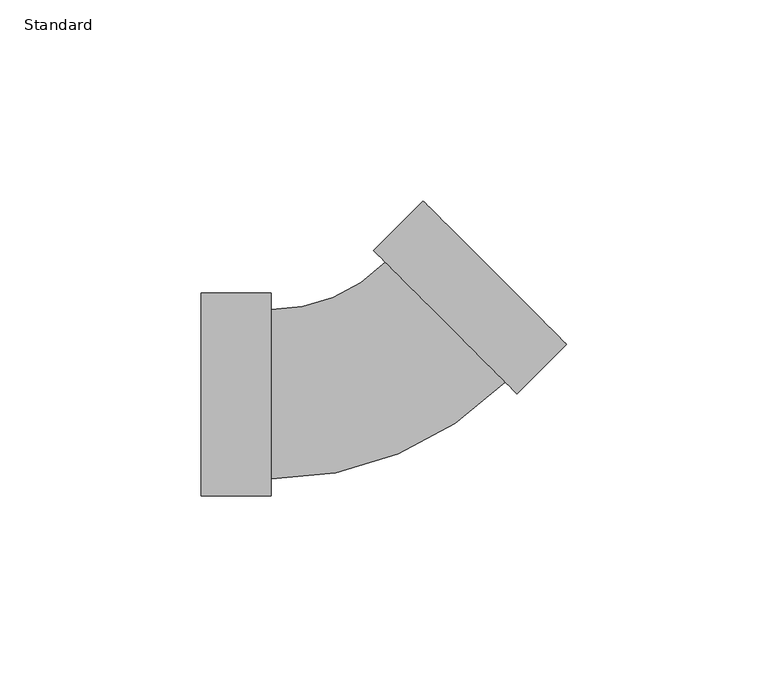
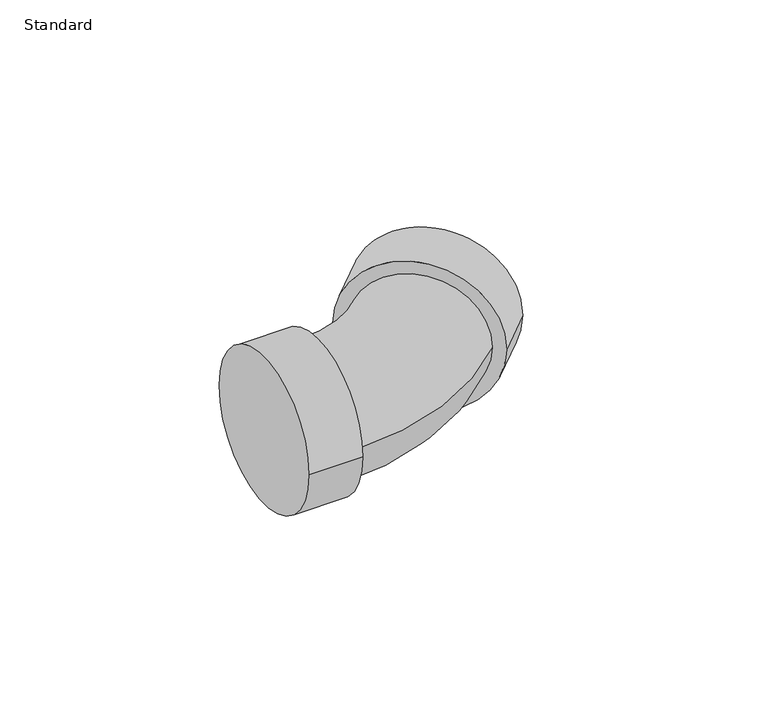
"""IFC4 building model written with IfcOpenShell, lengths in millimetres: pipe fitting geometry, Elbow_45_90-Lubrizol-CPVC-FlowGuard_MX : Standard."""

from ifc_helpers import new_model, si_unit, point, frame, origin, place, context, project, spatial, circle_curve, ellipse_curve, trimmed, source, transform, mapped, element, save
from ifc_brep_helpers import plane_surface, cylinder_surface, revolved_surface, advanced_brep


def standard_14e32512(model_context):
    return source(origin(), model_context, "Body", "AdvancedBrep", [
        advanced_brep(
        [(-42.8498, -25.2349, 0.0), (-42.8498, 25.2349, 0.0), (-25.4, -25.2349, 0.0), (-25.4, 25.2349, 0.0), (-25.4, -21.082, 0.0), (-25.4, 21.082, 0.0), (3.0532871, 32.8677374, 0.0), (32.8677374, 3.0532871, 0.0), (35.8042812, 0.1167433, 0.0), (0.1167433, 35.8042812, 0.0), (48.1431531, 12.4556152, 0.0), (12.4556152, 48.1431531, 0.0)],
        [
            (0, 1, circle_curve(frame((-42.8498, 0.0, 0.0), z_axis=(-1.0, 0.0, 0.0), x_axis=(0.0, 1.0, 0.0)), 25.2349)),
            (1, 0, circle_curve(frame((-42.8498, 0.0, 0.0), z_axis=(-1.0, 0.0, 0.0), x_axis=(0.0, 1.0, 0.0)), 25.2349)),
            (2, 3, circle_curve(frame((-25.4, 0.0, 0.0), z_axis=(1.0, 0.0, 0.0), x_axis=(0.0, 1.0, 0.0)), 25.2349)),
            (3, 2, circle_curve(frame((-25.4, 0.0, 0.0), z_axis=(1.0, 0.0, 0.0), x_axis=(0.0, 1.0, 0.0)), 25.2349)),
            (4, 5, circle_curve(frame((-25.4, 0.0, 0.0), z_axis=(-1.0, 0.0, 0.0), x_axis=(0.0, 1.0, 0.0)), 21.082)),
            (5, 4, circle_curve(frame((-25.4, 0.0, 0.0), z_axis=(-1.0, 0.0, 0.0), x_axis=(0.0, 1.0, 0.0)), 21.082)),
            (0, 2),
            (3, 1),
            (6, 5, circle_curve(frame((-25.4, 61.3210245, 0.0), z_axis=(0.0, 0.0, -1.0), x_axis=(0.0, -1.0, 0.0)), 40.2390245)),
            (4, 7, circle_curve(frame((-25.4, 61.3210245, 0.0), z_axis=(0.0, 0.0, 1.0), x_axis=(0.0, -1.0, 0.0)), 82.4030245)),
            (7, 6, circle_curve(frame((17.9605122, 17.9605122, 0.0), z_axis=(-0.7071067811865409, -0.7071067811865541, 0.0), x_axis=(-0.7071067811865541, 0.7071067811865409, 0.0)), 21.082)),
            (6, 7, circle_curve(frame((17.9605122, 17.9605122, 0.0), z_axis=(-0.7071067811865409, -0.7071067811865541, 0.0), x_axis=(-0.7071067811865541, 0.7071067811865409, 0.0)), 21.082)),
            (8, 9, circle_curve(frame((17.9605122, 17.9605122, 0.0), z_axis=(-0.7071067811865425, -0.7071067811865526, 0.0), x_axis=(-0.7071067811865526, 0.7071067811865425, 0.0)), 25.2349)),
            (9, 8, circle_curve(frame((17.9605122, 17.9605122, 0.0), z_axis=(-0.7071067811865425, -0.7071067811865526, 0.0), x_axis=(-0.7071067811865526, 0.7071067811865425, 0.0)), 25.2349)),
            (10, 11, circle_curve(frame((30.2993842, 30.2993842, 0.0), z_axis=(0.7071067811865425, 0.7071067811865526, 0.0), x_axis=(-0.7071067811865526, 0.7071067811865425, 0.0)), 25.2349)),
            (11, 10, circle_curve(frame((30.2993842, 30.2993842, 0.0), z_axis=(0.7071067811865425, 0.7071067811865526, 0.0), x_axis=(-0.7071067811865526, 0.7071067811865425, 0.0)), 25.2349)),
            (8, 10),
            (11, 9),
        ],
        [
            plane_surface(frame((-42.8498, 0.0, 0.0), z_axis=(-1.0, 0.0, 0.0), x_axis=(0.0, 0.0, 1.0))),
            plane_surface(frame((-25.4, 0.0, 0.0), z_axis=(1.0, 0.0, 0.0), x_axis=(0.0, 0.0, 1.0))),
            cylinder_surface(frame((-42.8498, 0.0, 0.0), z_axis=(-1.0, 0.0, 0.0), x_axis=(0.0, 1.0, 0.0)), 25.2349),
            revolved_surface(trimmed(ellipse_curve(frame((-25.4, 0.0, 0.0), z_axis=(-1.0, 0.0, 0.0), x_axis=(0.0, 1.0, 0.0)), 21.082, 21.082), [point((-25.4, -21.082, 0.0))], [point((-25.4, 21.082, 0.0))], True, "CARTESIAN"), (-25.4, 61.3210245, 0.0), (0.0, 0.0, 1.0)),
            revolved_surface(trimmed(ellipse_curve(frame((-25.4, 0.0, 0.0), z_axis=(-1.0, 0.0, 0.0), x_axis=(0.0, 1.0, 0.0)), 21.082, 21.082), [point((-25.4, 21.082, 0.0))], [point((-25.4, -21.082, 0.0))], True, "CARTESIAN"), (-25.4, 61.3210245, 0.0), (0.0, 0.0, 1.0)),
            plane_surface(frame((17.9605122, 17.9605122, 0.0), z_axis=(-0.7071067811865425, -0.7071067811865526, 0.0), x_axis=(0.0, 0.0, 1.0))),
            plane_surface(frame((30.2993842, 30.2993842, 0.0), z_axis=(0.7071067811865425, 0.7071067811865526, 0.0), x_axis=(0.0, 0.0, 1.0))),
            cylinder_surface(frame((17.9605122, 17.9605122, 0.0), z_axis=(-0.7071067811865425, -0.7071067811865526, 0.0), x_axis=(-0.7071067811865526, 0.7071067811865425, 0.0)), 25.2349),
        ],
        [
            (0, [[1, 2]]),
            (1, [[3, 4], [5, 6]]),
            (2, [[-1, 7, -4, 8]]),
            (2, [[-2, -8, -3, -7]]),
            (3, [[9, -5, 10, 11]]),
            (4, [[-9, 12, -10, -6]]),
            (5, [[13, 14], [-11, -12]]),
            (6, [[15, 16]]),
            (7, [[-13, 17, -16, 18]]),
            (7, [[-14, -18, -15, -17]]),
        ],
    ),
    ])


if __name__ == "__main__":
    model = new_model("IFC4")
    model_context = context("Model", 3, world=origin())
    ifc_project = project(units=[si_unit("LENGTHUNIT", "METRE", prefix="MILLI")], contexts=[model_context])
    site = spatial("IfcSite", under=ifc_project)
    building = spatial("IfcBuilding", under=site)
    placement = place(None, origin())
    standard_shape = standard_14e32512(model_context)
    element("IfcPipeFitting", 1, ObjectType="Elbow_45_90-Lubrizol-CPVC-FlowGuard_MX : Standard", at=placement, inside=building, context=model_context, shape_type="MappedRepresentation", body=[
        mapped(standard_shape, transform((0.0, 0.0, 0.0), x_axis=(1.0, 0.0, 0.0), y_axis=(0.0, 1.0, 0.0), z_axis=(0.0, 0.0, 1.0))),
    ])
    save(model, "model.ifc")
